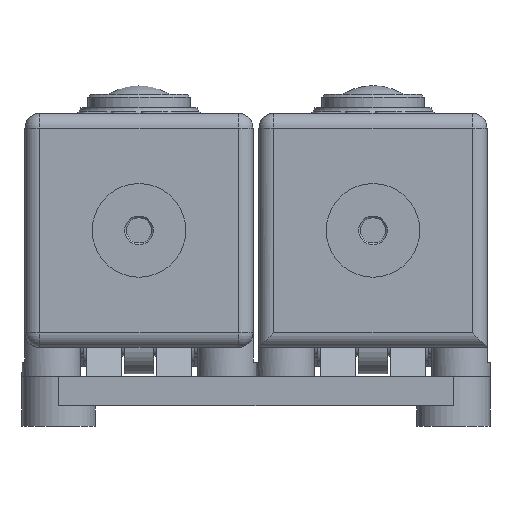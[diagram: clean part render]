
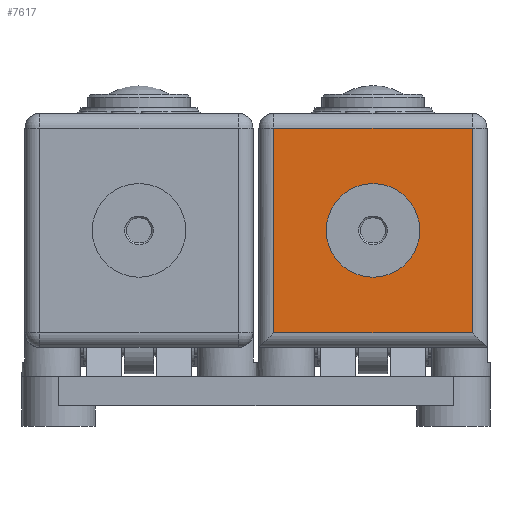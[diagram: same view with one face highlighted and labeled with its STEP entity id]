
A CAD part, front view. The second image highlights one B-rep face of the part: STEP entity #7617.
In plain terms, the highlighted planar face has unit normal (0, -1, 0).
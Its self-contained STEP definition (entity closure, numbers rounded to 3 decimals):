
#87=FACE_BOUND('',#1051,.T.);
#246=PLANE('',#8248);
#579=FACE_OUTER_BOUND('',#1050,.T.);
#1050=EDGE_LOOP('',(#5768,#5769,#5770,#5771));
#1051=EDGE_LOOP('',(#5772));
#1486=CIRCLE('',#8178,16.);
#2033=LINE('',#12152,#2711);
#2034=LINE('',#12155,#2712);
#2036=LINE('',#12159,#2714);
#2037=LINE('',#12162,#2715);
#2711=VECTOR('',#9736,10.);
#2712=VECTOR('',#9741,10.);
#2714=VECTOR('',#9745,10.);
#2715=VECTOR('',#9750,10.);
#3358=VERTEX_POINT('',#11908);
#3394=VERTEX_POINT('',#12079);
#3398=VERTEX_POINT('',#12105);
#3403=VERTEX_POINT('',#12151);
#3404=VERTEX_POINT('',#12158);
#4175=EDGE_CURVE('',#3358,#3358,#1486,.T.);
#4249=EDGE_CURVE('',#3403,#3398,#2033,.T.);
#4251=EDGE_CURVE('',#3398,#3394,#2034,.T.);
#4253=EDGE_CURVE('',#3394,#3404,#2036,.T.);
#4255=EDGE_CURVE('',#3404,#3403,#2037,.T.);
#5768=ORIENTED_EDGE('',*,*,#4249,.F.);
#5769=ORIENTED_EDGE('',*,*,#4255,.F.);
#5770=ORIENTED_EDGE('',*,*,#4253,.F.);
#5771=ORIENTED_EDGE('',*,*,#4251,.F.);
#5772=ORIENTED_EDGE('',*,*,#4175,.T.);
#7617=ADVANCED_FACE('',(#579,#87),#246,.F.);
#8178=AXIS2_PLACEMENT_3D('',#11910,#9578,#9579);
#8248=AXIS2_PLACEMENT_3D('',#12175,#9761,#9762);
#9578=DIRECTION('center_axis',(0.,1.,0.));
#9579=DIRECTION('ref_axis',(0.,0.,-1.));
#9736=DIRECTION('',(0.,0.,1.));
#9741=DIRECTION('',(1.,0.,0.));
#9745=DIRECTION('',(0.,0.,-1.));
#9750=DIRECTION('',(-1.,0.,0.));
#9761=DIRECTION('center_axis',(0.,1.,0.));
#9762=DIRECTION('ref_axis',(0.,0.,-1.));
#11908=CARTESIAN_POINT('',(33.619,-153.685,24.75));
#11910=CARTESIAN_POINT('Origin',(33.619,-153.685,8.75));
#12079=CARTESIAN_POINT('',(67.619,-153.685,43.75));
#12105=CARTESIAN_POINT('',(-0.381,-153.685,43.75));
#12151=CARTESIAN_POINT('',(-0.381,-153.685,-26.25));
#12152=CARTESIAN_POINT('',(-0.381,-153.685,-13.75));
#12155=CARTESIAN_POINT('',(53.119,-153.685,43.75));
#12158=CARTESIAN_POINT('',(67.619,-153.685,-26.25));
#12159=CARTESIAN_POINT('',(67.619,-153.685,-13.75));
#12162=CARTESIAN_POINT('',(14.119,-153.685,-26.25));
#12175=CARTESIAN_POINT('Origin',(33.619,-153.685,8.75));
